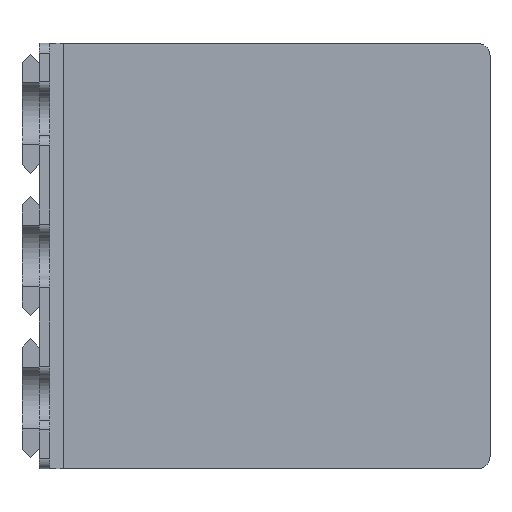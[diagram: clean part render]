
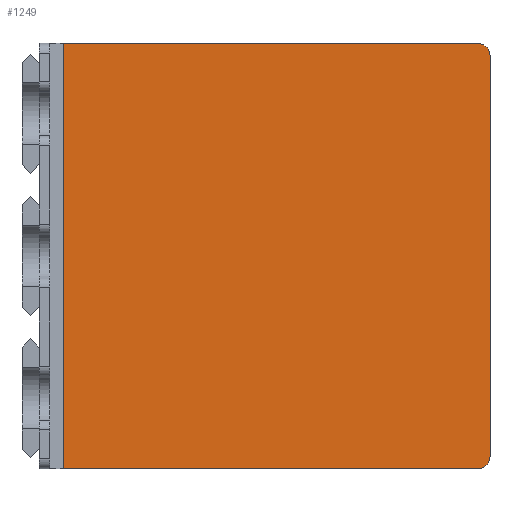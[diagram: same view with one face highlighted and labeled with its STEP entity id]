
A CAD part, top view. The second image highlights one B-rep face of the part: STEP entity #1249.
In plain terms, the highlighted planar face has unit normal (0, 0, 1).
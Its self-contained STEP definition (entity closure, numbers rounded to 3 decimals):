
#34=CIRCLE('',#1333,3.75);
#35=CIRCLE('',#1334,3.75);
#67=FACE_OUTER_BOUND('',#136,.T.);
#136=EDGE_LOOP('',(#827,#828,#829,#830,#831,#832));
#211=LINE('',#1803,#365);
#212=LINE('',#1805,#366);
#213=LINE('',#1807,#367);
#214=LINE('',#1811,#368);
#365=VECTOR('',#1442,10.);
#366=VECTOR('',#1443,10.);
#367=VECTOR('',#1444,10.);
#368=VECTOR('',#1447,10.);
#519=VERTEX_POINT('',#1801);
#520=VERTEX_POINT('',#1802);
#521=VERTEX_POINT('',#1804);
#522=VERTEX_POINT('',#1806);
#523=VERTEX_POINT('',#1808);
#524=VERTEX_POINT('',#1810);
#641=EDGE_CURVE('',#519,#520,#211,.T.);
#642=EDGE_CURVE('',#521,#520,#212,.T.);
#643=EDGE_CURVE('',#522,#521,#213,.T.);
#644=EDGE_CURVE('',#523,#522,#34,.T.);
#645=EDGE_CURVE('',#524,#523,#214,.T.);
#646=EDGE_CURVE('',#519,#524,#35,.T.);
#827=ORIENTED_EDGE('',*,*,#641,.T.);
#828=ORIENTED_EDGE('',*,*,#642,.F.);
#829=ORIENTED_EDGE('',*,*,#643,.F.);
#830=ORIENTED_EDGE('',*,*,#644,.F.);
#831=ORIENTED_EDGE('',*,*,#645,.F.);
#832=ORIENTED_EDGE('',*,*,#646,.F.);
#1196=PLANE('',#1332);
#1249=ADVANCED_FACE('',(#67),#1196,.F.);
#1332=AXIS2_PLACEMENT_3D('',#1800,#1440,#1441);
#1333=AXIS2_PLACEMENT_3D('',#1809,#1445,#1446);
#1334=AXIS2_PLACEMENT_3D('',#1812,#1448,#1449);
#1440=DIRECTION('center_axis',(0.,0.,-1.));
#1441=DIRECTION('ref_axis',(1.,0.,0.));
#1442=DIRECTION('',(-1.,0.,0.));
#1443=DIRECTION('',(0.,1.,0.));
#1444=DIRECTION('',(-1.,0.,0.));
#1445=DIRECTION('center_axis',(0.,0.,-1.));
#1446=DIRECTION('ref_axis',(0.707,-0.707,0.));
#1447=DIRECTION('',(0.,-1.,0.));
#1448=DIRECTION('center_axis',(0.,0.,-1.));
#1449=DIRECTION('ref_axis',(0.707,0.707,0.));
#1800=CARTESIAN_POINT('Origin',(122.15,42.,-137.478));
#1801=CARTESIAN_POINT('',(225.4,104.8,-137.478));
#1802=CARTESIAN_POINT('',(103.15,104.8,-137.478));
#1803=CARTESIAN_POINT('',(122.15,104.8,-137.478));
#1804=CARTESIAN_POINT('',(103.15,-20.8,-137.478));
#1805=CARTESIAN_POINT('',(103.15,21.,-137.478));
#1806=CARTESIAN_POINT('',(225.4,-20.8,-137.478));
#1807=CARTESIAN_POINT('',(122.15,-20.8,-137.478));
#1808=CARTESIAN_POINT('',(229.15,-17.05,-137.478));
#1809=CARTESIAN_POINT('Origin',(225.4,-17.05,-137.478));
#1810=CARTESIAN_POINT('',(229.15,101.05,-137.478));
#1811=CARTESIAN_POINT('',(229.15,42.,-137.478));
#1812=CARTESIAN_POINT('Origin',(225.4,101.05,-137.478));
